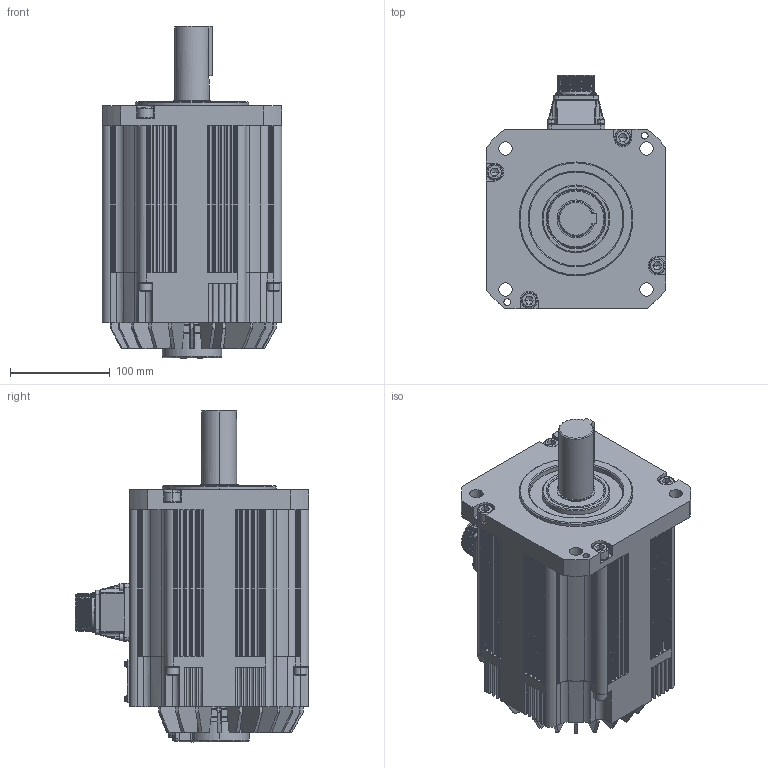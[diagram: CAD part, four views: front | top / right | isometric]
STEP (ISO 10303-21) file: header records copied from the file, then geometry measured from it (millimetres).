
FILE_DESCRIPTION (( 'STEP AP203' ), '1' );
FILE_NAME ('TSM3614N2375E720.STEP', '2018-07-04T09:12:45', ( '' ), ( '' ), 'SwSTEP 2.0', 'SolidWorks 2017', '' );
FILE_SCHEMA (( 'CONFIG_CONTROL_DESIGN' ));
Products named in the file (1): TSM3614N2375E720
Bounding box: 180 x 234.5 x 333 mm (x, y, z)
Volume: 6274246.6 mm3; surface area: 364716.8 mm2
Topology: 1 solids, 24 shells, 2702 faces, 7151 edges, 4584 vertices
Faces by surface type: plane 1451, cylinder 712, bspline 388, cone 137, torus 14
Entity records: 104673 total; most frequent: CARTESIAN_POINT 41160, ORIENTED_EDGE 14186, DIRECTION 11633, EDGE_CURVE 7093, VERTEX_POINT 4584, VECTOR 4339, LINE 4339, AXIS2_PLACEMENT_3D 3647
